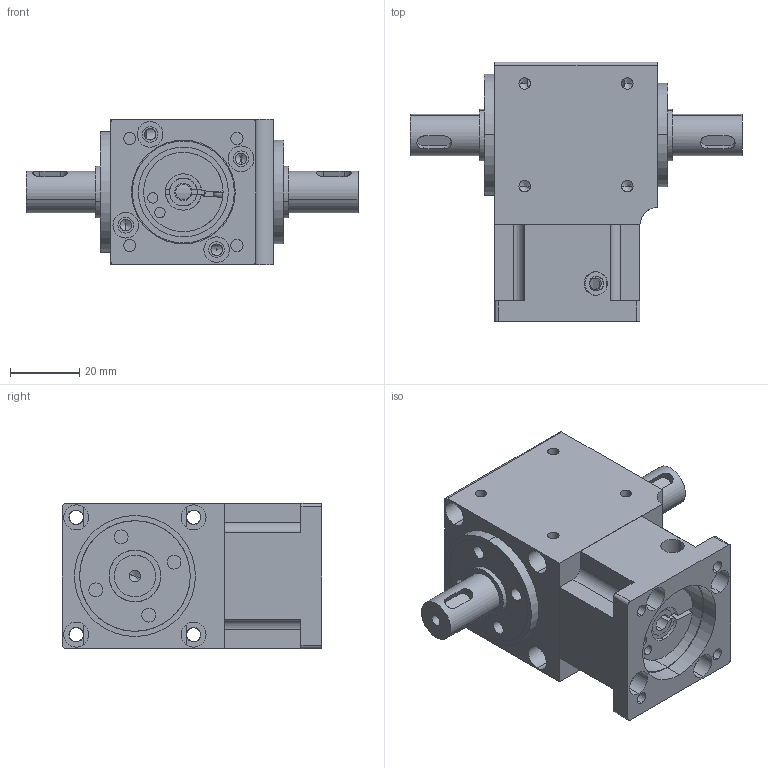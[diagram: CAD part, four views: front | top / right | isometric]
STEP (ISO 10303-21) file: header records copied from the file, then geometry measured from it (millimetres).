
FILE_DESCRIPTION (( 'STEP AP203' ), '1' );
FILE_NAME ('42双轴（步进）.STEP', '2020-07-27T03:16:54', ( '微软用户' ), ( '微软中国' ), 'SwSTEP 2.0', 'SolidWorks 2015', '' );
FILE_SCHEMA (( 'CONFIG_CONTROL_DESIGN' ));
Length unit declared in the file: millimetre
Products named in the file (12): 61902_Rolling bearings 61902 GB 276-94; 6002_Rolling bearings 6002 GB 276-94; 綴楊擘ㄗ祭輛ㄘ; 8-5粣杶; 褲极; 怀堤粣ㄗ邧粣ㄘ; 输入轴; 42邧粣ㄗ祭輛ㄘ; 蹟譫; 蹟譫ㄗ2ㄘ; 標杶ㄗ1ㄘ; 6001_Rolling bearings 6001 GB 276-94
Assembly tree (11 placements, depth 2):
  42邧粣ㄗ祭輛ㄘ
    褲极
    输入轴
    蹟譫
    蹟譫ㄗ2ㄘ
    標杶ㄗ1ㄘ
    6001_Rolling bearings 6001 GB 276-94
    6002_Rolling bearings 6002 GB 276-94
    61902_Rolling bearings 61902 GB 276-94
    綴楊擘ㄗ祭輛ㄘ
    8-5粣杶
    怀堤粣ㄗ邧粣ㄘ
Bounding box: 96 x 75 x 42 mm (x, y, z)
Volume: 99786.8 mm3; surface area: 57087 mm2
Topology: 11 solids, 11 shells, 688 faces, 2476 edges, 1637 vertices
Faces by surface type: cylinder 251, torus 177, plane 109, sphere 98, cone 53
Entity records: 30216 total; most frequent: CARTESIAN_POINT 9999, ORIENTED_EDGE 4296, DIRECTION 3786, EDGE_CURVE 2148, AXIS2_PLACEMENT_3D 1688, VERTEX_POINT 1441, CIRCLE 986, EDGE_LOOP 823
